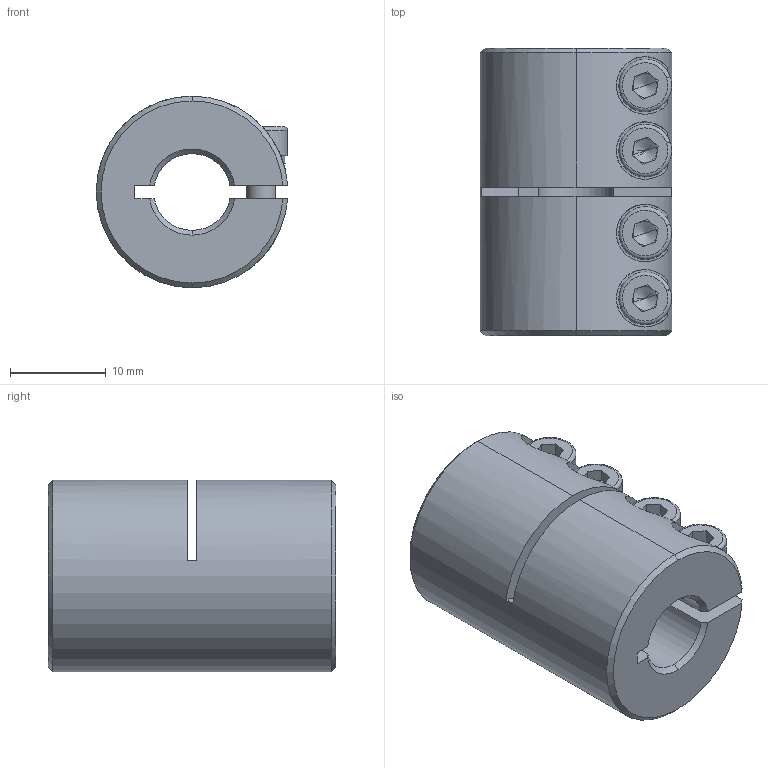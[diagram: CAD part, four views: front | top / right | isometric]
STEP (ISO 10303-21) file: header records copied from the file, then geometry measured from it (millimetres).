
FILE_DESCRIPTION (( 'STEP AP203' ), '1' );
FILE_NAME ('LL-B-D20L30-8-8.STEP', '2021-11-05T03:17:42', ( '' ), ( '' ), 'SwSTEP 2.0', 'SolidWorks 2018', '' );
FILE_SCHEMA (( 'CONFIG_CONTROL_DESIGN' ));
Length unit declared in the file: millimetre
Products named in the file (1): LL-B-D20L30-8-8
Bounding box: 19.98 x 30 x 20 mm (x, y, z)
Volume: 7306.1 mm3; surface area: 4538.4 mm2
Topology: 1 solids, 1 shells, 173 faces, 444 edges, 277 vertices
Faces by surface type: plane 87, cylinder 58, cone 20, torus 8
Entity records: 5650 total; most frequent: CARTESIAN_POINT 1319, DIRECTION 927, ORIENTED_EDGE 872, EDGE_CURVE 436, AXIS2_PLACEMENT_3D 357, VERTEX_POINT 277, VECTOR 213, LINE 213
